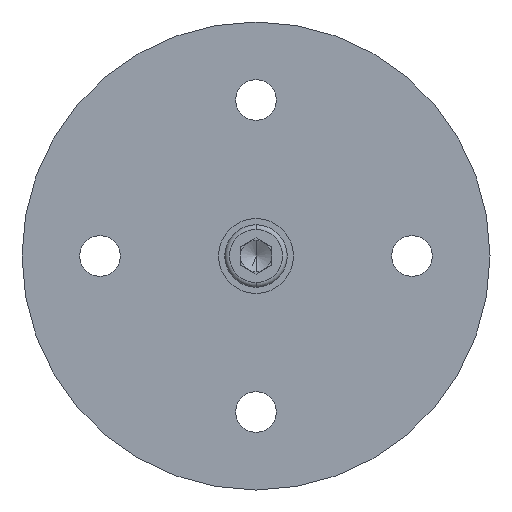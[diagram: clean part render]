
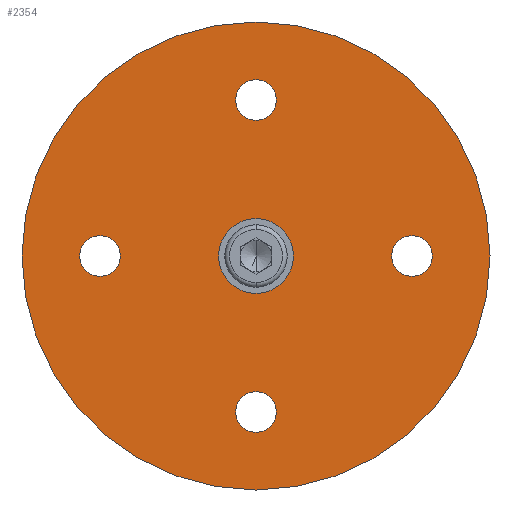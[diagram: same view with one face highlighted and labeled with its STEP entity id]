
A CAD part, front view. The second image highlights one B-rep face of the part: STEP entity #2354.
In plain terms, the highlighted planar face has unit normal (0, -1, 0).
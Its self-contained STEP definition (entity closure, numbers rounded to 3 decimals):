
#11 = DIRECTION ( 'NONE',  ( 0., 1., 0. ) ) ;
#68 = AXIS2_PLACEMENT_3D ( 'NONE', #1317, #935, #3595 ) ;
#72 = CARTESIAN_POINT ( 'NONE',  ( 1., -15.168, 0. ) ) ;
#80 = AXIS2_PLACEMENT_3D ( 'NONE', #2725, #713, #111 ) ;
#88 = CIRCLE ( 'NONE', #68, 37.5 ) ;
#111 = DIRECTION ( 'NONE',  ( 0., 0., 1. ) ) ;
#122 = CIRCLE ( 'NONE', #2299, 37.5 ) ;
#131 = CIRCLE ( 'NONE', #3911, 3.25 ) ;
#165 = DIRECTION ( 'NONE',  ( 0., 1., 0. ) ) ;
#166 = DIRECTION ( 'NONE',  ( 1., 0., 0. ) ) ;
#245 = PLANE ( 'NONE',  #2651 ) ;
#248 = VERTEX_POINT ( 'NONE', #314 ) ;
#268 = DIRECTION ( 'NONE',  ( 0., 1., 0. ) ) ;
#307 = EDGE_CURVE ( 'NONE', #3950, #1267, #3793, .T. ) ;
#314 = CARTESIAN_POINT ( 'NONE',  ( -5., -15.168, 0. ) ) ;
#344 = CIRCLE ( 'NONE', #3376, 6. ) ;
#370 = DIRECTION ( 'NONE',  ( 0., 0., 1. ) ) ;
#410 = CIRCLE ( 'NONE', #2252, 3.25 ) ;
#424 = DIRECTION ( 'NONE',  ( -1., 0., 0. ) ) ;
#450 = ORIENTED_EDGE ( 'NONE', *, *, #1615, .T. ) ;
#460 = FACE_BOUND ( 'NONE', #3797, .T. ) ;
#509 = FACE_BOUND ( 'NONE', #2229, .T. ) ;
#533 = DIRECTION ( 'NONE',  ( 0., 0., 1. ) ) ;
#564 = ORIENTED_EDGE ( 'NONE', *, *, #3270, .T. ) ;
#579 = CIRCLE ( 'NONE', #3531, 3.25 ) ;
#713 = DIRECTION ( 'NONE',  ( 0., 1., 0. ) ) ;
#722 = EDGE_CURVE ( 'NONE', #2196, #2425, #3300, .T. ) ;
#754 = EDGE_LOOP ( 'NONE', ( #2564, #1908 ) ) ;
#780 = DIRECTION ( 'NONE',  ( 0., 1., 0. ) ) ;
#804 = EDGE_LOOP ( 'NONE', ( #564, #2981 ) ) ;
#818 = EDGE_CURVE ( 'NONE', #2677, #248, #344, .T. ) ;
#839 = CIRCLE ( 'NONE', #2406, 6. ) ;
#870 = VERTEX_POINT ( 'NONE', #2273 ) ;
#871 = CARTESIAN_POINT ( 'NONE',  ( -36.5, -15.168, 0. ) ) ;
#872 = ORIENTED_EDGE ( 'NONE', *, *, #2829, .F. ) ;
#875 = DIRECTION ( 'NONE',  ( 0., 1., 0. ) ) ;
#935 = DIRECTION ( 'NONE',  ( 0., 1., 0. ) ) ;
#1045 = CIRCLE ( 'NONE', #1380, 3.25 ) ;
#1053 = ORIENTED_EDGE ( 'NONE', *, *, #3469, .T. ) ;
#1094 = DIRECTION ( 'NONE',  ( 1., 0., 0. ) ) ;
#1112 = DIRECTION ( 'NONE',  ( 0., 0., 1. ) ) ;
#1151 = FACE_BOUND ( 'NONE', #2790, .T. ) ;
#1267 = VERTEX_POINT ( 'NONE', #2796 ) ;
#1317 = CARTESIAN_POINT ( 'NONE',  ( 1., -15.168, 0. ) ) ;
#1374 = ORIENTED_EDGE ( 'NONE', *, *, #722, .T. ) ;
#1380 = AXIS2_PLACEMENT_3D ( 'NONE', #2343, #11, #370 ) ;
#1391 = DIRECTION ( 'NONE',  ( 0., 0., 1. ) ) ;
#1440 = DIRECTION ( 'NONE',  ( 0., 0., 1. ) ) ;
#1445 = CIRCLE ( 'NONE', #80, 3.25 ) ;
#1503 = AXIS2_PLACEMENT_3D ( 'NONE', #2752, #780, #1391 ) ;
#1507 = DIRECTION ( 'NONE',  ( 0., 1., 0. ) ) ;
#1529 = CARTESIAN_POINT ( 'NONE',  ( 26., -15.168, 0. ) ) ;
#1572 = ORIENTED_EDGE ( 'NONE', *, *, #2201, .T. ) ;
#1585 = CARTESIAN_POINT ( 'NONE',  ( 1., -15.168, 21.75 ) ) ;
#1615 = EDGE_CURVE ( 'NONE', #1267, #3950, #1445, .T. ) ;
#1761 = VERTEX_POINT ( 'NONE', #2442 ) ;
#1776 = DIRECTION ( 'NONE',  ( 0., -1., 0. ) ) ;
#1819 = DIRECTION ( 'NONE',  ( 0., 1., 0. ) ) ;
#1881 = CARTESIAN_POINT ( 'NONE',  ( 1., -15.168, -28.25 ) ) ;
#1908 = ORIENTED_EDGE ( 'NONE', *, *, #4159, .F. ) ;
#2034 = DIRECTION ( 'NONE',  ( 0., -1., 0. ) ) ;
#2081 = EDGE_CURVE ( 'NONE', #3960, #4055, #1045, .T. ) ;
#2173 = ORIENTED_EDGE ( 'NONE', *, *, #307, .T. ) ;
#2196 = VERTEX_POINT ( 'NONE', #3445 ) ;
#2201 = EDGE_CURVE ( 'NONE', #2425, #2196, #410, .T. ) ;
#2223 = AXIS2_PLACEMENT_3D ( 'NONE', #1529, #1507, #3453 ) ;
#2229 = EDGE_LOOP ( 'NONE', ( #2877, #872 ) ) ;
#2252 = AXIS2_PLACEMENT_3D ( 'NONE', #2807, #165, #533 ) ;
#2273 = CARTESIAN_POINT ( 'NONE',  ( 26., -15.168, -3.25 ) ) ;
#2291 = CARTESIAN_POINT ( 'NONE',  ( -24., -15.168, -3.25 ) ) ;
#2292 = CARTESIAN_POINT ( 'NONE',  ( 1., -15.168, -21.75 ) ) ;
#2299 = AXIS2_PLACEMENT_3D ( 'NONE', #2682, #2364, #424 ) ;
#2343 = CARTESIAN_POINT ( 'NONE',  ( 1., -15.168, -25. ) ) ;
#2354 = ADVANCED_FACE ( 'NONE', ( #509, #1151, #460, #3808, #3044, #2943 ), #245, .F. ) ;
#2364 = DIRECTION ( 'NONE',  ( 0., 1., 0. ) ) ;
#2376 = CARTESIAN_POINT ( 'NONE',  ( -24., -15.168, 0. ) ) ;
#2406 = AXIS2_PLACEMENT_3D ( 'NONE', #72, #2034, #1094 ) ;
#2414 = EDGE_CURVE ( 'NONE', #3412, #3882, #88, .T. ) ;
#2425 = VERTEX_POINT ( 'NONE', #2291 ) ;
#2442 = CARTESIAN_POINT ( 'NONE',  ( 26., -15.168, 3.25 ) ) ;
#2469 = CIRCLE ( 'NONE', #2223, 3.25 ) ;
#2564 = ORIENTED_EDGE ( 'NONE', *, *, #2414, .F. ) ;
#2603 = CARTESIAN_POINT ( 'NONE',  ( 38.5, -15.168, 0. ) ) ;
#2651 = AXIS2_PLACEMENT_3D ( 'NONE', #3820, #268, #3499 ) ;
#2659 = AXIS2_PLACEMENT_3D ( 'NONE', #2376, #1819, #1440 ) ;
#2677 = VERTEX_POINT ( 'NONE', #3087 ) ;
#2682 = CARTESIAN_POINT ( 'NONE',  ( 1., -15.168, 0. ) ) ;
#2703 = EDGE_LOOP ( 'NONE', ( #1374, #1572 ) ) ;
#2725 = CARTESIAN_POINT ( 'NONE',  ( 1., -15.168, 25. ) ) ;
#2752 = CARTESIAN_POINT ( 'NONE',  ( 1., -15.168, 25. ) ) ;
#2790 = EDGE_LOOP ( 'NONE', ( #1053, #3091 ) ) ;
#2796 = CARTESIAN_POINT ( 'NONE',  ( 1., -15.168, 28.25 ) ) ;
#2807 = CARTESIAN_POINT ( 'NONE',  ( -24., -15.168, 0. ) ) ;
#2829 = EDGE_CURVE ( 'NONE', #248, #2677, #839, .T. ) ;
#2840 = CARTESIAN_POINT ( 'NONE',  ( 1., -15.168, -25. ) ) ;
#2877 = ORIENTED_EDGE ( 'NONE', *, *, #818, .F. ) ;
#2943 = FACE_OUTER_BOUND ( 'NONE', #754, .T. ) ;
#2981 = ORIENTED_EDGE ( 'NONE', *, *, #3419, .T. ) ;
#3044 = FACE_BOUND ( 'NONE', #804, .T. ) ;
#3087 = CARTESIAN_POINT ( 'NONE',  ( 7., -15.168, 0. ) ) ;
#3091 = ORIENTED_EDGE ( 'NONE', *, *, #2081, .T. ) ;
#3123 = CARTESIAN_POINT ( 'NONE',  ( 1., -15.168, 0. ) ) ;
#3157 = DIRECTION ( 'NONE',  ( 0., 0., 1. ) ) ;
#3270 = EDGE_CURVE ( 'NONE', #1761, #870, #2469, .T. ) ;
#3300 = CIRCLE ( 'NONE', #2659, 3.25 ) ;
#3335 = DIRECTION ( 'NONE',  ( 0., 1., 0. ) ) ;
#3376 = AXIS2_PLACEMENT_3D ( 'NONE', #3123, #1776, #166 ) ;
#3412 = VERTEX_POINT ( 'NONE', #871 ) ;
#3419 = EDGE_CURVE ( 'NONE', #870, #1761, #579, .T. ) ;
#3445 = CARTESIAN_POINT ( 'NONE',  ( -24., -15.168, 3.25 ) ) ;
#3453 = DIRECTION ( 'NONE',  ( 0., 0., 1. ) ) ;
#3469 = EDGE_CURVE ( 'NONE', #4055, #3960, #131, .T. ) ;
#3499 = DIRECTION ( 'NONE',  ( -1., 0., 0. ) ) ;
#3531 = AXIS2_PLACEMENT_3D ( 'NONE', #3712, #3335, #1112 ) ;
#3595 = DIRECTION ( 'NONE',  ( -1., 0., 0. ) ) ;
#3712 = CARTESIAN_POINT ( 'NONE',  ( 26., -15.168, 0. ) ) ;
#3793 = CIRCLE ( 'NONE', #1503, 3.25 ) ;
#3797 = EDGE_LOOP ( 'NONE', ( #450, #2173 ) ) ;
#3808 = FACE_BOUND ( 'NONE', #2703, .T. ) ;
#3820 = CARTESIAN_POINT ( 'NONE',  ( 1., -15.168, 0. ) ) ;
#3882 = VERTEX_POINT ( 'NONE', #2603 ) ;
#3911 = AXIS2_PLACEMENT_3D ( 'NONE', #2840, #875, #3157 ) ;
#3950 = VERTEX_POINT ( 'NONE', #1585 ) ;
#3960 = VERTEX_POINT ( 'NONE', #1881 ) ;
#4055 = VERTEX_POINT ( 'NONE', #2292 ) ;
#4159 = EDGE_CURVE ( 'NONE', #3882, #3412, #122, .T. ) ;
